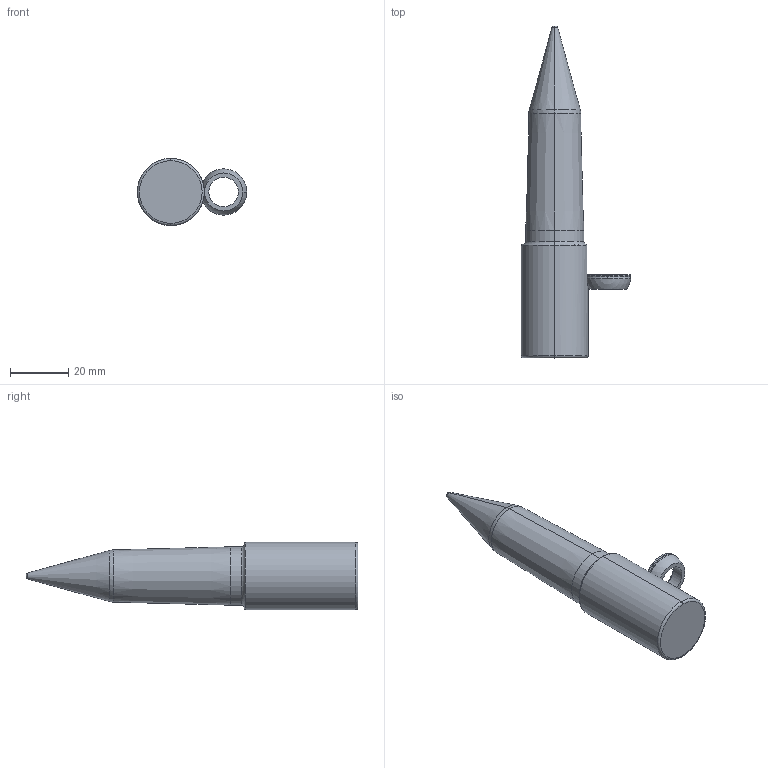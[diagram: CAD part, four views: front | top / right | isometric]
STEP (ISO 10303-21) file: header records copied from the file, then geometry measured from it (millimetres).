
FILE_DESCRIPTION (( 'STEP AP214' ), '1' );
FILE_NAME ('PA-T-20mm-3.8mm-40mm-3-A-F1.STEP', '2019-05-08T18:12:55', ( '' ), ( '' ), 'SwSTEP 2.0', 'SolidWorks 2017', '' );
FILE_SCHEMA (( 'AUTOMOTIVE_DESIGN' ));
Length unit declared in the file: inch
Products named in the file (3): SLRadiusWasher_RadiusWasher-M; SLPilot-PA-T-M_PA-T-20-3.8-40-3-A-F1; PA-T-20mm-3.8mm-40mm-3-A-F1
Assembly tree (2 placements, depth 2):
  PA-T-20mm-3.8mm-40mm-3-A-F1
    SLRadiusWasher_RadiusWasher-M
    SLPilot-PA-T-M_PA-T-20-3.8-40-3-A-F1
Bounding box: 37.55 x 113.81 x 23 mm (x, y, z)
Volume: 32291.5 mm3; surface area: 7502.1 mm2
Topology: 2 solids, 2 shells, 41 faces, 89 edges, 52 vertices
Faces by surface type: torus 15, cylinder 11, cone 6, plane 5, sphere 4
Entity records: 1318 total; most frequent: CARTESIAN_POINT 254, DIRECTION 242, ORIENTED_EDGE 178, AXIS2_PLACEMENT_3D 112, EDGE_CURVE 89, CIRCLE 66, VERTEX_POINT 52, EDGE_LOOP 43
